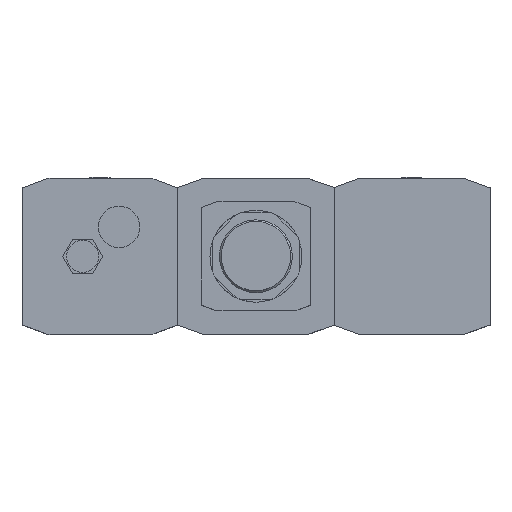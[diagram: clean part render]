
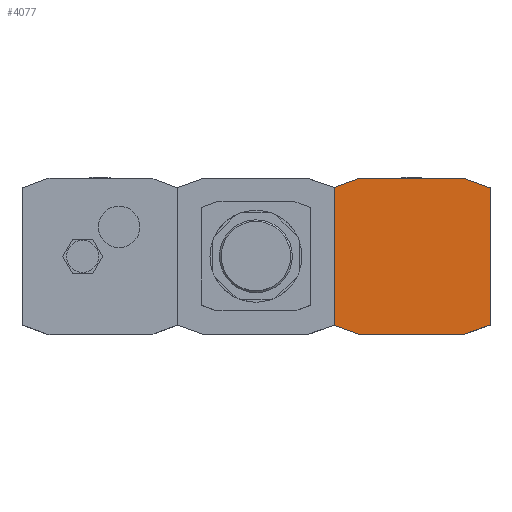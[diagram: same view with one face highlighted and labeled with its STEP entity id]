
A CAD part, top view. The second image highlights one B-rep face of the part: STEP entity #4077.
In plain terms, the highlighted planar face has unit normal (0, 0, 1).
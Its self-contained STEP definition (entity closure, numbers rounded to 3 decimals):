
#3875=CARTESIAN_POINT('',(-45.1,-39.61,78.));
#3876=VERTEX_POINT('',#3875);
#3877=CARTESIAN_POINT('',(-45.1,39.61,78.));
#3878=VERTEX_POINT('',#3877);
#3879=CARTESIAN_POINT('',(-45.1,-39.61,78.));
#3880=DIRECTION('',(0.0,1.0,0.0));
#3881=VECTOR('',#3880,79.221);
#3882=LINE('',#3879,#3881);
#3883=EDGE_CURVE('',#3876,#3878,#3882,.T.);
#3906=CARTESIAN_POINT('',(-30.018,45.1,78.));
#3907=VERTEX_POINT('',#3906);
#3908=CARTESIAN_POINT('',(-45.1,39.61,78.));
#3909=DIRECTION('',(0.94,0.342,0.0));
#3910=VECTOR('',#3909,16.05);
#3911=LINE('',#3908,#3910);
#3912=EDGE_CURVE('',#3878,#3907,#3911,.T.);
#3930=CARTESIAN_POINT('',(30.018,45.1,78.));
#3931=VERTEX_POINT('',#3930);
#3932=CARTESIAN_POINT('',(-30.018,45.1,78.));
#3933=DIRECTION('',(1.0,0.0,0.0));
#3934=VECTOR('',#3933,60.035);
#3935=LINE('',#3932,#3934);
#3936=EDGE_CURVE('',#3907,#3931,#3935,.T.);
#3954=CARTESIAN_POINT('',(45.1,39.61,78.));
#3955=VERTEX_POINT('',#3954);
#3956=CARTESIAN_POINT('',(30.018,45.1,78.));
#3957=DIRECTION('',(0.94,-0.342,0.0));
#3958=VECTOR('',#3957,16.05);
#3959=LINE('',#3956,#3958);
#3960=EDGE_CURVE('',#3931,#3955,#3959,.T.);
#3978=CARTESIAN_POINT('',(45.1,-39.61,78.));
#3979=VERTEX_POINT('',#3978);
#3980=CARTESIAN_POINT('',(45.1,39.61,78.));
#3981=DIRECTION('',(0.0,-1.0,0.0));
#3982=VECTOR('',#3981,79.221);
#3983=LINE('',#3980,#3982);
#3984=EDGE_CURVE('',#3955,#3979,#3983,.T.);
#4002=CARTESIAN_POINT('',(30.018,-45.1,78.));
#4003=VERTEX_POINT('',#4002);
#4004=CARTESIAN_POINT('',(45.1,-39.61,78.));
#4005=DIRECTION('',(-0.94,-0.342,0.0));
#4006=VECTOR('',#4005,16.05);
#4007=LINE('',#4004,#4006);
#4008=EDGE_CURVE('',#3979,#4003,#4007,.T.);
#4026=CARTESIAN_POINT('',(-30.018,-45.1,78.));
#4027=VERTEX_POINT('',#4026);
#4028=CARTESIAN_POINT('',(30.018,-45.1,78.));
#4029=DIRECTION('',(-1.0,0.0,0.0));
#4030=VECTOR('',#4029,60.035);
#4031=LINE('',#4028,#4030);
#4032=EDGE_CURVE('',#4003,#4027,#4031,.T.);
#4050=CARTESIAN_POINT('',(-30.018,-45.1,78.));
#4051=DIRECTION('',(-0.94,0.342,0.0));
#4052=VECTOR('',#4051,16.05);
#4053=LINE('',#4050,#4052);
#4054=EDGE_CURVE('',#4027,#3876,#4053,.T.);
#4062=CARTESIAN_POINT('',(0.,0.,78.));
#4063=DIRECTION('',(0.0,0.0,1.0));
#4064=DIRECTION('',(1.0,0.0,0.0));
#4065=AXIS2_PLACEMENT_3D('',#4062,#4063,#4064);
#4066=PLANE('',#4065);
#4067=ORIENTED_EDGE('',*,*,#3883,.F.);
#4068=ORIENTED_EDGE('',*,*,#4054,.F.);
#4069=ORIENTED_EDGE('',*,*,#4032,.F.);
#4070=ORIENTED_EDGE('',*,*,#4008,.F.);
#4071=ORIENTED_EDGE('',*,*,#3984,.F.);
#4072=ORIENTED_EDGE('',*,*,#3960,.F.);
#4073=ORIENTED_EDGE('',*,*,#3936,.F.);
#4074=ORIENTED_EDGE('',*,*,#3912,.F.);
#4075=EDGE_LOOP('',(#4067,#4068,#4069,#4070,#4071,#4072,#4073,#4074));
#4076=FACE_OUTER_BOUND('',#4075,.T.);
#4077=ADVANCED_FACE('',(#4076),#4066,.T.);
